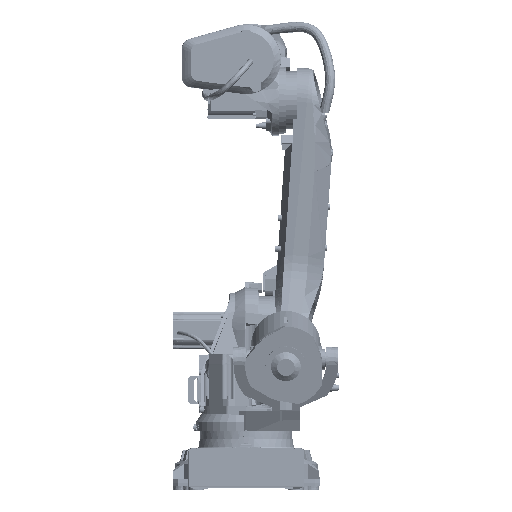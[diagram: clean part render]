
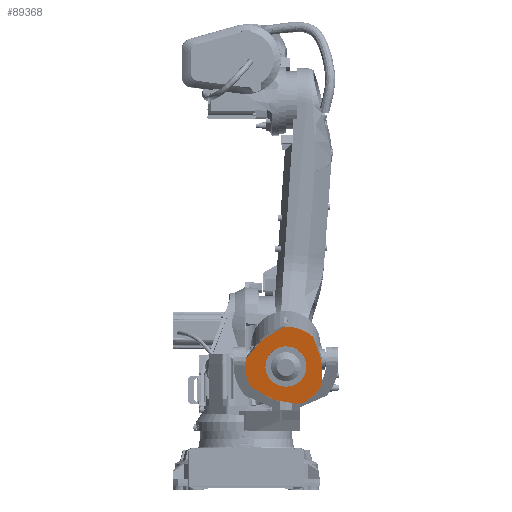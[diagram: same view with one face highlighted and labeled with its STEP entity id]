
A CAD part, left-side view. The second image highlights one B-rep face of the part: STEP entity #89368.
In plain terms, the highlighted planar face has unit normal (-0.978, 0, -0.208).
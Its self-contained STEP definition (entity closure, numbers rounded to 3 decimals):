
#553=PLANE('',#95088);
#6673=LINE('',#128977,#14804);
#6674=LINE('',#128984,#14805);
#6675=LINE('',#128986,#14806);
#6676=LINE('',#128994,#14807);
#6677=LINE('',#128998,#14808);
#6678=LINE('',#129005,#14809);
#14804=VECTOR('',#103705,1000.);
#14805=VECTOR('',#103712,1000.);
#14806=VECTOR('',#103713,1000.);
#14807=VECTOR('',#103720,1000.);
#14808=VECTOR('',#103723,1000.);
#14809=VECTOR('',#103730,1000.);
#22923=FACE_BOUND('',#29345,.T.);
#24009=FACE_OUTER_BOUND('',#29344,.T.);
#29344=EDGE_LOOP('',(#61078,#61079,#61080,#61081,#61082,#61083,#61084,#61085,
#61086,#61087,#61088,#61089,#61090,#61091,#61092,#61093,#61094,#61095));
#29345=EDGE_LOOP('',(#61096));
#35625=CIRCLE('',#94982,175.);
#35627=CIRCLE('',#94985,100.);
#35665=CIRCLE('',#95089,175.);
#35666=CIRCLE('',#95090,10.);
#35667=CIRCLE('',#95091,199.);
#35668=CIRCLE('',#95092,10.);
#35669=CIRCLE('',#95093,10.);
#35670=CIRCLE('',#95094,199.);
#35671=CIRCLE('',#95095,10.);
#35672=CIRCLE('',#95096,175.);
#35673=CIRCLE('',#95097,10.);
#35674=CIRCLE('',#95098,199.);
#35675=CIRCLE('',#95099,10.);
#38556=VERTEX_POINT('',#128489);
#38557=VERTEX_POINT('',#128490);
#38560=VERTEX_POINT('',#128498);
#38647=VERTEX_POINT('',#128973);
#38648=VERTEX_POINT('',#128974);
#38649=VERTEX_POINT('',#128976);
#38650=VERTEX_POINT('',#128978);
#38651=VERTEX_POINT('',#128980);
#38652=VERTEX_POINT('',#128982);
#38653=VERTEX_POINT('',#128985);
#38654=VERTEX_POINT('',#128987);
#38655=VERTEX_POINT('',#128989);
#38656=VERTEX_POINT('',#128991);
#38657=VERTEX_POINT('',#128993);
#38658=VERTEX_POINT('',#128995);
#38659=VERTEX_POINT('',#128997);
#38660=VERTEX_POINT('',#128999);
#38661=VERTEX_POINT('',#129001);
#38662=VERTEX_POINT('',#129003);
#47524=EDGE_CURVE('',#38556,#38557,#35625,.T.);
#47528=EDGE_CURVE('',#38560,#38560,#35627,.T.);
#47642=EDGE_CURVE('',#38647,#38648,#35665,.T.);
#47643=EDGE_CURVE('',#38648,#38649,#6673,.T.);
#47644=EDGE_CURVE('',#38649,#38650,#35666,.T.);
#47645=EDGE_CURVE('',#38650,#38651,#35667,.T.);
#47646=EDGE_CURVE('',#38651,#38652,#35668,.T.);
#47647=EDGE_CURVE('',#38652,#38556,#6674,.T.);
#47648=EDGE_CURVE('',#38557,#38653,#6675,.T.);
#47649=EDGE_CURVE('',#38653,#38654,#35669,.T.);
#47650=EDGE_CURVE('',#38654,#38655,#35670,.T.);
#47651=EDGE_CURVE('',#38655,#38656,#35671,.T.);
#47652=EDGE_CURVE('',#38656,#38657,#6676,.T.);
#47653=EDGE_CURVE('',#38657,#38658,#35672,.T.);
#47654=EDGE_CURVE('',#38658,#38659,#6677,.T.);
#47655=EDGE_CURVE('',#38659,#38660,#35673,.T.);
#47656=EDGE_CURVE('',#38660,#38661,#35674,.T.);
#47657=EDGE_CURVE('',#38661,#38662,#35675,.T.);
#47658=EDGE_CURVE('',#38662,#38647,#6678,.T.);
#61078=ORIENTED_EDGE('',*,*,#47642,.T.);
#61079=ORIENTED_EDGE('',*,*,#47643,.T.);
#61080=ORIENTED_EDGE('',*,*,#47644,.T.);
#61081=ORIENTED_EDGE('',*,*,#47645,.T.);
#61082=ORIENTED_EDGE('',*,*,#47646,.T.);
#61083=ORIENTED_EDGE('',*,*,#47647,.T.);
#61084=ORIENTED_EDGE('',*,*,#47524,.T.);
#61085=ORIENTED_EDGE('',*,*,#47648,.T.);
#61086=ORIENTED_EDGE('',*,*,#47649,.T.);
#61087=ORIENTED_EDGE('',*,*,#47650,.T.);
#61088=ORIENTED_EDGE('',*,*,#47651,.T.);
#61089=ORIENTED_EDGE('',*,*,#47652,.T.);
#61090=ORIENTED_EDGE('',*,*,#47653,.T.);
#61091=ORIENTED_EDGE('',*,*,#47654,.T.);
#61092=ORIENTED_EDGE('',*,*,#47655,.T.);
#61093=ORIENTED_EDGE('',*,*,#47656,.T.);
#61094=ORIENTED_EDGE('',*,*,#47657,.T.);
#61095=ORIENTED_EDGE('',*,*,#47658,.T.);
#61096=ORIENTED_EDGE('',*,*,#47528,.T.);
#89368=ADVANCED_FACE('',(#24009,#22923),#553,.T.);
#94982=AXIS2_PLACEMENT_3D('',#128491,#103449,#103450);
#94985=AXIS2_PLACEMENT_3D('',#128499,#103457,#103458);
#95088=AXIS2_PLACEMENT_3D('',#128972,#103701,#103702);
#95089=AXIS2_PLACEMENT_3D('',#128975,#103703,#103704);
#95090=AXIS2_PLACEMENT_3D('',#128979,#103706,#103707);
#95091=AXIS2_PLACEMENT_3D('',#128981,#103708,#103709);
#95092=AXIS2_PLACEMENT_3D('',#128983,#103710,#103711);
#95093=AXIS2_PLACEMENT_3D('',#128988,#103714,#103715);
#95094=AXIS2_PLACEMENT_3D('',#128990,#103716,#103717);
#95095=AXIS2_PLACEMENT_3D('',#128992,#103718,#103719);
#95096=AXIS2_PLACEMENT_3D('',#128996,#103721,#103722);
#95097=AXIS2_PLACEMENT_3D('',#129000,#103724,#103725);
#95098=AXIS2_PLACEMENT_3D('',#129002,#103726,#103727);
#95099=AXIS2_PLACEMENT_3D('',#129004,#103728,#103729);
#103449=DIRECTION('center_axis',(-0.978,0.,
-0.208));
#103450=DIRECTION('ref_axis',(-0.195,-0.342,0.919));
#103457=DIRECTION('center_axis',(0.978,0.,
0.208));
#103458=DIRECTION('ref_axis',(0.,-1.,0.));
#103701=DIRECTION('center_axis',(-0.978,0.,
-0.208));
#103702=DIRECTION('ref_axis',(-0.195,-0.342,0.919));
#103703=DIRECTION('center_axis',(-0.978,0.,
-0.208));
#103704=DIRECTION('ref_axis',(-0.195,-0.342,0.919));
#103705=DIRECTION('',(0.16,0.64,-0.752));
#103706=DIRECTION('center_axis',(-0.978,0.,
-0.208));
#103707=DIRECTION('ref_axis',(0.195,0.342,-0.919));
#103708=DIRECTION('center_axis',(-0.978,0.,
-0.208));
#103709=DIRECTION('ref_axis',(-0.195,-0.342,0.919));
#103710=DIRECTION('center_axis',(-0.978,0.,
-0.208));
#103711=DIRECTION('ref_axis',(0.195,0.342,-0.919));
#103712=DIRECTION('',(0.105,-0.864,-0.492));
#103713=DIRECTION('',(0.035,-0.985,-0.166));
#103714=DIRECTION('center_axis',(-0.978,0.,
-0.208));
#103715=DIRECTION('ref_axis',(0.195,0.342,-0.919));
#103716=DIRECTION('center_axis',(-0.978,0.,
-0.208));
#103717=DIRECTION('ref_axis',(-0.195,-0.342,0.919));
#103718=DIRECTION('center_axis',(-0.978,0.,
-0.208));
#103719=DIRECTION('ref_axis',(-0.195,-0.342,0.919));
#103720=DIRECTION('',(-0.208,-0.004,0.978));
#103721=DIRECTION('center_axis',(-0.978,0.,
-0.208));
#103722=DIRECTION('ref_axis',(-0.195,-0.342,0.919));
#103723=DIRECTION('',(-0.195,0.345,0.918));
#103724=DIRECTION('center_axis',(-0.978,0.,
-0.208));
#103725=DIRECTION('ref_axis',(-0.195,-0.342,0.919));
#103726=DIRECTION('center_axis',(-0.978,0.,
-0.208));
#103727=DIRECTION('ref_axis',(-0.195,-0.342,0.919));
#103728=DIRECTION('center_axis',(-0.978,0.,
-0.208));
#103729=DIRECTION('ref_axis',(0.195,0.342,-0.919));
#103730=DIRECTION('',(0.103,0.868,-0.486));
#128489=CARTESIAN_POINT('',(-475.513,-105.961,456.28));
#128490=CARTESIAN_POINT('',(-471.103,-164.225,435.537));
#128491=CARTESIAN_POINT('Origin',(-506.959,-194.,604.216));
#128498=CARTESIAN_POINT('',(-486.483,-211.365,507.888));
#128499=CARTESIAN_POINT('Origin',(-506.959,-194.,604.216));
#128972=CARTESIAN_POINT('Origin',(-506.959,-194.,604.216));
#128973=CARTESIAN_POINT('',(-538.536,-107.04,752.762));
#128974=CARTESIAN_POINT('',(-530.249,-59.543,713.778));
#128975=CARTESIAN_POINT('Origin',(-506.959,-194.,604.216));
#128976=CARTESIAN_POINT('',(-515.524,-0.546,644.507));
#128977=CARTESIAN_POINT('',(-530.249,-59.543,713.778));
#128978=CARTESIAN_POINT('',(-514.576,1.6,640.047));
#128979=CARTESIAN_POINT('Origin',(-514.193,-8.23,638.246));
#128980=CARTESIAN_POINT('',(-485.893,-22.725,505.11));
#128981=CARTESIAN_POINT('Origin',(-506.959,-194.,604.216));
#128982=CARTESIAN_POINT('',(-485.154,-26.301,501.637));
#128983=CARTESIAN_POINT('Origin',(-486.951,-31.332,510.09));
#128984=CARTESIAN_POINT('',(-485.154,-26.301,501.637));
#128985=CARTESIAN_POINT('',(-467.843,-255.055,420.197));
#128986=CARTESIAN_POINT('',(-467.843,-255.055,420.197));
#128987=CARTESIAN_POINT('',(-467.93,-260.077,420.609));
#128988=CARTESIAN_POINT('Origin',(-469.891,-256.756,429.836));
#128989=CARTESIAN_POINT('',(-486.652,-367.384,508.683));
#128990=CARTESIAN_POINT('Origin',(-506.959,-194.,604.216));
#128991=CARTESIAN_POINT('',(-487.665,-368.671,513.449));
#128992=CARTESIAN_POINT('Origin',(-487.672,-358.671,513.483));
#128993=CARTESIAN_POINT('',(-506.83,-368.999,603.607));
#128994=CARTESIAN_POINT('',(-506.83,-368.999,603.607));
#128995=CARTESIAN_POINT('',(-519.526,-358.232,663.334));
#128996=CARTESIAN_POINT('Origin',(-506.959,-194.,604.216));
#128997=CARTESIAN_POINT('',(-537.512,-326.399,747.946));
#128998=CARTESIAN_POINT('',(-519.526,-358.232,663.334));
#128999=CARTESIAN_POINT('',(-538.372,-323.523,751.993));
#129000=CARTESIAN_POINT('Origin',(-536.794,-317.014,744.567));
#129001=CARTESIAN_POINT('',(-548.334,-191.891,798.856));
#129002=CARTESIAN_POINT('Origin',(-506.959,-194.,604.216));
#129003=CARTESIAN_POINT('',(-548.059,-187.028,797.564));
#129004=CARTESIAN_POINT('Origin',(-546.255,-191.997,789.075));
#129005=CARTESIAN_POINT('',(-538.536,-107.04,752.762));
